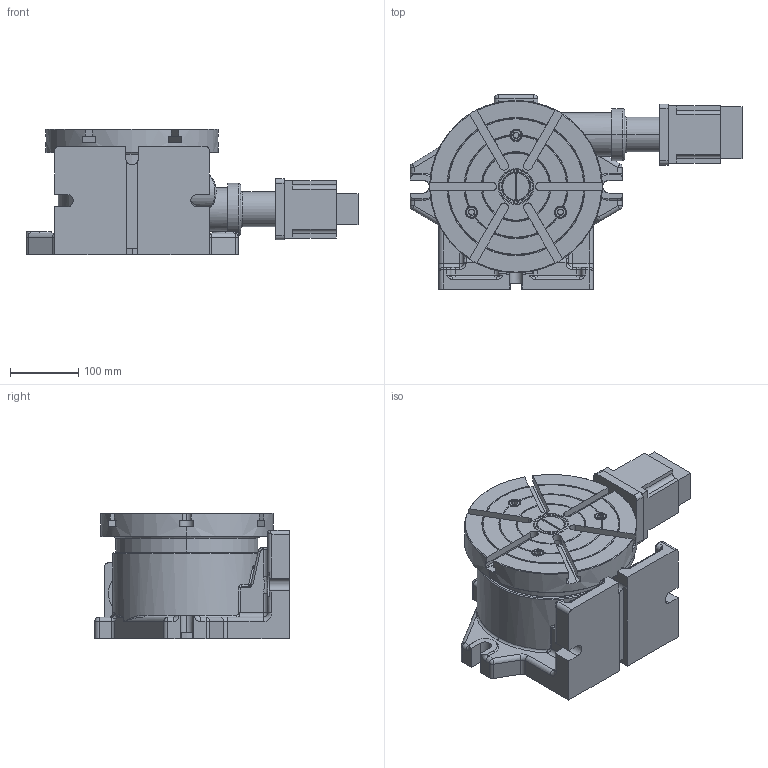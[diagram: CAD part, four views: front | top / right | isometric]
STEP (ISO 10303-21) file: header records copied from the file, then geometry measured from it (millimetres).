
FILE_DESCRIPTION (( 'STEP AP214' ), '1' );
FILE_NAME ('34122_8-INCH_SS_WITH_FACEPLATE.STEP', '2014-06-30T16:33:32', ( '' ), ( '' ), 'SwSTEP 2.0', 'SolidWorks 2012', '' );
FILE_SCHEMA (( 'AUTOMOTIVE_DESIGN' ));
Length unit declared in the file: inch
Products named in the file (6): 34122 8-INCH SS FACEPLATE ASSY; 34122 M10 FACEPLATE SCREW_91290A534; 34122 CENTER PLUG; 34122 8-INCH SS FACEPLATE; 34122 8-INCH SS BODY; 34122_8-INCH_SS_WITH_FACEPLATE
Assembly tree (7 placements, depth 3):
  34122_8-INCH_SS_WITH_FACEPLATE
    34122 8-INCH SS BODY
    34122 8-INCH SS FACEPLATE ASSY
      34122 8-INCH SS FACEPLATE
      34122 CENTER PLUG
      34122 M10 FACEPLATE SCREW_91290A534  x3
Bounding box: 485.14 x 284.48 x 183.98 mm (x, y, z)
Volume: 9390496.7 mm3; surface area: 602264.6 mm2
Topology: 6 solids, 6 shells, 948 faces, 2531 edges, 1587 vertices
Faces by surface type: cylinder 461, plane 246, cone 118, bspline 65, torus 48, sphere 10
Entity records: 30130 total; most frequent: CARTESIAN_POINT 12693, ORIENTED_EDGE 3702, DIRECTION 3384, EDGE_CURVE 1851, AXIS2_PLACEMENT_3D 1292, VERTEX_POINT 1163, LINE 800, VECTOR 800
